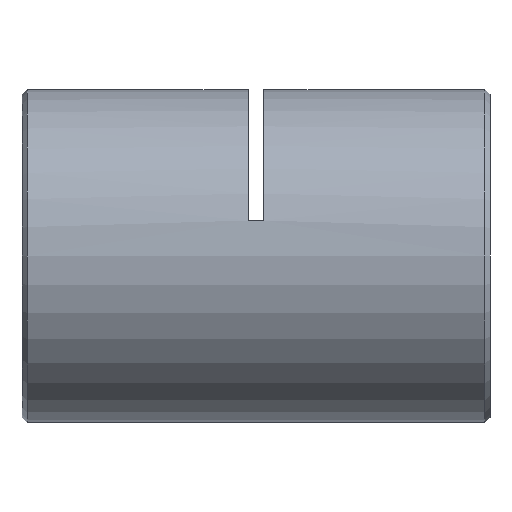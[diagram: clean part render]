
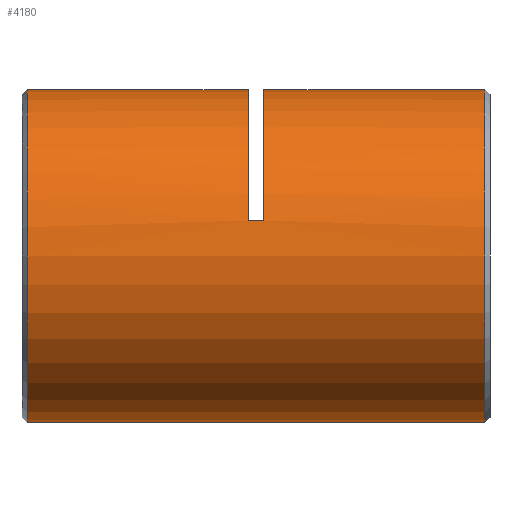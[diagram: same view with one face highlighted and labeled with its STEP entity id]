
A CAD part, left-side view. The second image highlights one B-rep face of the part: STEP entity #4180.
In plain terms, the highlighted cylindrical face has radius 16 mm (diameter 32 mm), a partial arc.
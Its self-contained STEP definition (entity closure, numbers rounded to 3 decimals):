
#44 = VECTOR ( 'NONE', #3738, 1000. ) ;
#420 = CIRCLE ( 'NONE', #4014, 16. ) ;
#686 = CARTESIAN_POINT ( 'NONE',  ( -15.632, 23.5, 3.413 ) ) ;
#843 = CARTESIAN_POINT ( 'NONE',  ( 0., 23.5, 0. ) ) ;
#878 = DIRECTION ( 'NONE',  ( 0., 0., 1. ) ) ;
#918 = CARTESIAN_POINT ( 'NONE',  ( 0., 0.75, 16. ) ) ;
#932 = CARTESIAN_POINT ( 'NONE',  ( 0., 0.75, 0. ) ) ;
#940 = ORIENTED_EDGE ( 'NONE', *, *, #2954, .T. ) ;
#954 = EDGE_CURVE ( 'NONE', #1398, #3531, #3936, .T. ) ;
#984 = EDGE_CURVE ( 'NONE', #5763, #3800, #2415, .T. ) ;
#1019 = CARTESIAN_POINT ( 'NONE',  ( 0., 0.75, -16. ) ) ;
#1029 = VERTEX_POINT ( 'NONE', #1285 ) ;
#1040 = VERTEX_POINT ( 'NONE', #918 ) ;
#1108 = CARTESIAN_POINT ( 'NONE',  ( 0., 44.75, 0. ) ) ;
#1285 = CARTESIAN_POINT ( 'NONE',  ( 0., 44.75, 16. ) ) ;
#1313 = ORIENTED_EDGE ( 'NONE', *, *, #954, .F. ) ;
#1349 = DIRECTION ( 'NONE',  ( 0., 0., 1. ) ) ;
#1398 = VERTEX_POINT ( 'NONE', #2685 ) ;
#1466 = AXIS2_PLACEMENT_3D ( 'NONE', #1108, #2614, #5062 ) ;
#1498 = VECTOR ( 'NONE', #3476, 1000. ) ;
#1510 = CARTESIAN_POINT ( 'NONE',  ( -15.632, 22.75, 3.413 ) ) ;
#1636 = CARTESIAN_POINT ( 'NONE',  ( 0., 44.75, -16. ) ) ;
#1867 = FACE_OUTER_BOUND ( 'NONE', #3166, .T. ) ;
#1954 = CARTESIAN_POINT ( 'NONE',  ( 0., 22., 0. ) ) ;
#2182 = CIRCLE ( 'NONE', #1466, 16. ) ;
#2367 = EDGE_CURVE ( 'NONE', #1029, #3800, #2182, .T. ) ;
#2415 = LINE ( 'NONE', #4334, #44 ) ;
#2614 = DIRECTION ( 'NONE',  ( 0., -1., 0. ) ) ;
#2630 = CARTESIAN_POINT ( 'NONE',  ( 0., 0., 16. ) ) ;
#2661 = DIRECTION ( 'NONE',  ( 0., 1., 0. ) ) ;
#2685 = CARTESIAN_POINT ( 'NONE',  ( -15.632, 22., 3.413 ) ) ;
#2726 = AXIS2_PLACEMENT_3D ( 'NONE', #1954, #2748, #878 ) ;
#2748 = DIRECTION ( 'NONE',  ( 0., 1., 0. ) ) ;
#2749 = ORIENTED_EDGE ( 'NONE', *, *, #4569, .T. ) ;
#2817 = DIRECTION ( 'NONE',  ( 0., 0., 1. ) ) ;
#2855 = CARTESIAN_POINT ( 'NONE',  ( 0., 0., 16. ) ) ;
#2866 = CYLINDRICAL_SURFACE ( 'NONE', #4638, 16. ) ;
#2954 = EDGE_CURVE ( 'NONE', #1398, #3768, #4920, .T. ) ;
#2975 = ORIENTED_EDGE ( 'NONE', *, *, #4293, .T. ) ;
#3166 = EDGE_LOOP ( 'NONE', ( #5365, #2975, #4751, #1313, #940, #4702, #2749, #4071 ) ) ;
#3304 = VECTOR ( 'NONE', #3795, 1000. ) ;
#3476 = DIRECTION ( 'NONE',  ( 0., 1., 0. ) ) ;
#3531 = VERTEX_POINT ( 'NONE', #5061 ) ;
#3596 = CIRCLE ( 'NONE', #3886, 16. ) ;
#3738 = DIRECTION ( 'NONE',  ( 0., 1., 0. ) ) ;
#3740 = CARTESIAN_POINT ( 'NONE',  ( 0., 0., 0. ) ) ;
#3768 = VERTEX_POINT ( 'NONE', #686 ) ;
#3795 = DIRECTION ( 'NONE',  ( 0., 1., 0. ) ) ;
#3800 = VERTEX_POINT ( 'NONE', #1636 ) ;
#3801 = DIRECTION ( 'NONE',  ( 0., 1., 0. ) ) ;
#3886 = AXIS2_PLACEMENT_3D ( 'NONE', #843, #5661, #2817 ) ;
#3936 = CIRCLE ( 'NONE', #2726, 16. ) ;
#4014 = AXIS2_PLACEMENT_3D ( 'NONE', #932, #4474, #4871 ) ;
#4071 = ORIENTED_EDGE ( 'NONE', *, *, #2367, .T. ) ;
#4180 = ADVANCED_FACE ( 'NONE', ( #1867 ), #2866, .T. ) ;
#4293 = EDGE_CURVE ( 'NONE', #5763, #1040, #420, .T. ) ;
#4334 = CARTESIAN_POINT ( 'NONE',  ( 0., 0., -16. ) ) ;
#4474 = DIRECTION ( 'NONE',  ( 0., 1., 0. ) ) ;
#4569 = EDGE_CURVE ( 'NONE', #5119, #1029, #5319, .T. ) ;
#4610 = CARTESIAN_POINT ( 'NONE',  ( 0., 23.5, 16. ) ) ;
#4638 = AXIS2_PLACEMENT_3D ( 'NONE', #3740, #3801, #1349 ) ;
#4647 = LINE ( 'NONE', #2630, #6064 ) ;
#4702 = ORIENTED_EDGE ( 'NONE', *, *, #4886, .T. ) ;
#4751 = ORIENTED_EDGE ( 'NONE', *, *, #5207, .T. ) ;
#4871 = DIRECTION ( 'NONE',  ( 0., 0., 1. ) ) ;
#4886 = EDGE_CURVE ( 'NONE', #3768, #5119, #3596, .T. ) ;
#4920 = LINE ( 'NONE', #1510, #1498 ) ;
#5061 = CARTESIAN_POINT ( 'NONE',  ( 0., 22., 16. ) ) ;
#5062 = DIRECTION ( 'NONE',  ( 0., 0., -1. ) ) ;
#5119 = VERTEX_POINT ( 'NONE', #4610 ) ;
#5207 = EDGE_CURVE ( 'NONE', #1040, #3531, #4647, .T. ) ;
#5319 = LINE ( 'NONE', #2855, #3304 ) ;
#5365 = ORIENTED_EDGE ( 'NONE', *, *, #984, .F. ) ;
#5661 = DIRECTION ( 'NONE',  ( 0., 1., 0. ) ) ;
#5763 = VERTEX_POINT ( 'NONE', #1019 ) ;
#6064 = VECTOR ( 'NONE', #2661, 1000. ) ;
